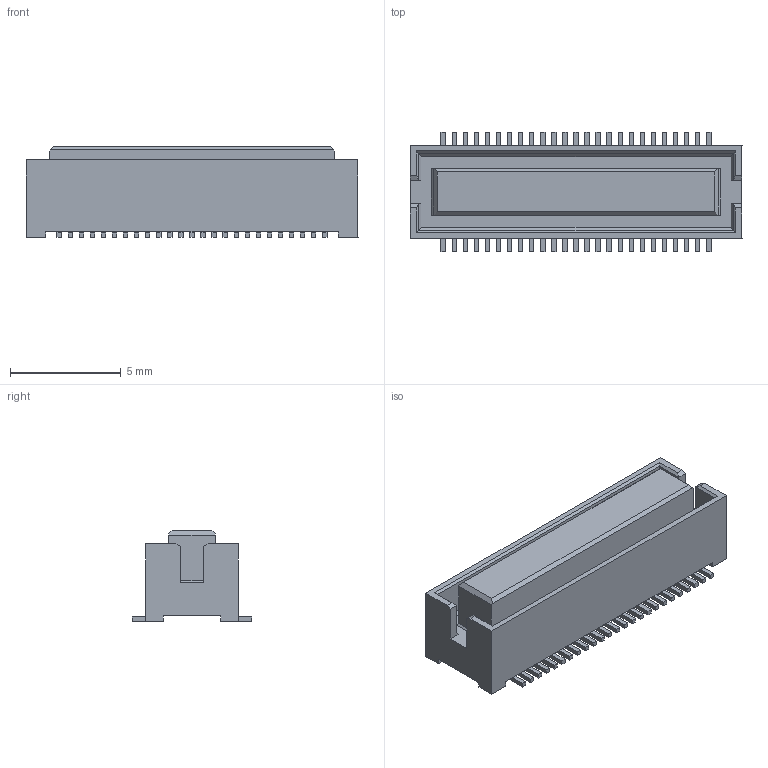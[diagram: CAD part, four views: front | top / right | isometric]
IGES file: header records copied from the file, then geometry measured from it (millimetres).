
Start section: SolidWorks IGES file using analytic representation for surfaces
Global section: file name: N:\Kamikawa_Hisako\★三次元モデル作成依頼\5047\205047XXX400\245047050400.IGS; native system: SolidWorks 2017; preprocessor: SolidWorks 2017; author: HISAKO.KAMIKAWA.FJ; date: 220106.150244; units: millimetre
Bounding box: 15 x 5.4 x 4.1 mm (x, y, z)
Surface area: 428.3 mm2 (no closed solid volume)
Topology: 0 solids, 0 shells, 507 faces, 3512 edges, 3512 vertices
Faces by surface type: bspline 307, revolution 200
